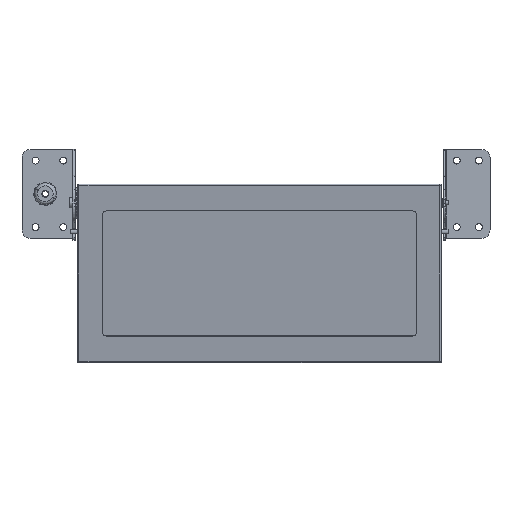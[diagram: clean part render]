
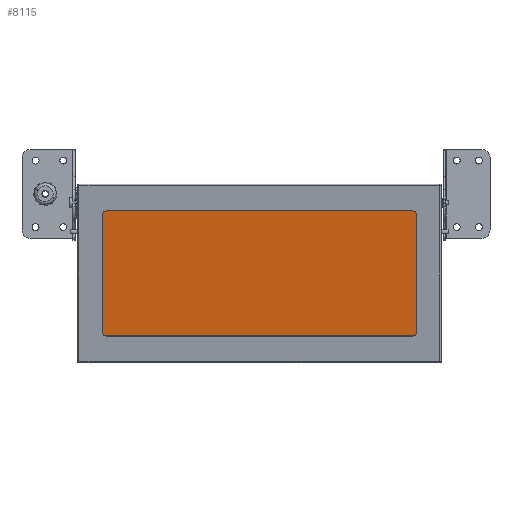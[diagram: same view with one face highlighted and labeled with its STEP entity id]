
A CAD part, top view. The second image highlights one B-rep face of the part: STEP entity #8115.
In plain terms, the highlighted planar face has unit normal (0, -0.143, 0.99) as drawn and (0, 1, 0) by its records, which use the part's own axes.
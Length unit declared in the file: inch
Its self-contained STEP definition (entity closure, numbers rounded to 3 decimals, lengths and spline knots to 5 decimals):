
#101 = CARTESIAN_POINT ( 'NONE',  ( -7.1, -0.063, 6.73509 ) ) ;
#220 = AXIS2_PLACEMENT_3D ( 'NONE', #3507, #10480, #4518 ) ;
#335 = ORIENTED_EDGE ( 'NONE', *, *, #1975, .T. ) ;
#511 = CARTESIAN_POINT ( 'NONE',  ( 7.1, -0.063, 1.41109 ) ) ;
#600 = CARTESIAN_POINT ( 'NONE',  ( -6.912, -0.063, 1.22309 ) ) ;
#781 = VERTEX_POINT ( 'NONE', #511 ) ;
#893 = FACE_OUTER_BOUND ( 'NONE', #8086, .T. ) ;
#924 = CARTESIAN_POINT ( 'NONE',  ( 6.912, -0.063, 1.22309 ) ) ;
#1223 = CARTESIAN_POINT ( 'NONE',  ( 7.1, -0.063, 1.41109 ) ) ;
#1345 = DIRECTION ( 'NONE',  ( 0., 1., 0. ) ) ;
#1771 = CARTESIAN_POINT ( 'NONE',  ( -7.1, -0.063, 1.41109 ) ) ;
#1891 = VECTOR ( 'NONE', #7227, 39.37008 ) ;
#1953 = DIRECTION ( 'NONE',  ( 0., 1., 0. ) ) ;
#1975 = EDGE_CURVE ( 'NONE', #12409, #9021, #6566, .T. ) ;
#2136 = VECTOR ( 'NONE', #2789, 39.37008 ) ;
#2204 = ORIENTED_EDGE ( 'NONE', *, *, #3698, .T. ) ;
#2222 = CIRCLE ( 'NONE', #220, 0.188 ) ;
#2368 = CARTESIAN_POINT ( 'NONE',  ( -6.912, -0.063, 6.92309 ) ) ;
#2396 = DIRECTION ( 'NONE',  ( 0., 1., 0. ) ) ;
#2520 = LINE ( 'NONE', #1223, #1891 ) ;
#2789 = DIRECTION ( 'NONE',  ( 0., 0., 1. ) ) ;
#3202 = PLANE ( 'NONE',  #7447 ) ;
#3250 = DIRECTION ( 'NONE',  ( 0., 1., 0. ) ) ;
#3507 = CARTESIAN_POINT ( 'NONE',  ( -6.912, -0.063, 1.41109 ) ) ;
#3574 = ORIENTED_EDGE ( 'NONE', *, *, #3628, .T. ) ;
#3628 = EDGE_CURVE ( 'NONE', #8362, #781, #2520, .T. ) ;
#3698 = EDGE_CURVE ( 'NONE', #11030, #8362, #9515, .T. ) ;
#3924 = VECTOR ( 'NONE', #11050, 39.37008 ) ;
#3975 = ORIENTED_EDGE ( 'NONE', *, *, #12106, .T. ) ;
#4077 = CARTESIAN_POINT ( 'NONE',  ( -6.912, -0.063, 6.92309 ) ) ;
#4302 = CARTESIAN_POINT ( 'NONE',  ( 6.912, -0.063, 6.92309 ) ) ;
#4518 = DIRECTION ( 'NONE',  ( 0., 0., 1. ) ) ;
#4663 = VERTEX_POINT ( 'NONE', #101 ) ;
#5516 = AXIS2_PLACEMENT_3D ( 'NONE', #8350, #2396, #9358 ) ;
#5844 = CIRCLE ( 'NONE', #9858, 0.188 ) ;
#5962 = VECTOR ( 'NONE', #6371, 39.37008 ) ;
#6253 = CARTESIAN_POINT ( 'NONE',  ( -6.912, -0.063, 1.22309 ) ) ;
#6371 = DIRECTION ( 'NONE',  ( 1., 0., 0. ) ) ;
#6566 = LINE ( 'NONE', #6253, #3924 ) ;
#7227 = DIRECTION ( 'NONE',  ( 0., 0., -1. ) ) ;
#7232 = EDGE_CURVE ( 'NONE', #781, #12409, #12384, .T. ) ;
#7319 = CARTESIAN_POINT ( 'NONE',  ( 6.912, -0.063, 6.73509 ) ) ;
#7447 = AXIS2_PLACEMENT_3D ( 'NONE', #9217, #3250, #10217 ) ;
#7743 = LINE ( 'NONE', #8764, #2136 ) ;
#7755 = ORIENTED_EDGE ( 'NONE', *, *, #7891, .T. ) ;
#7891 = EDGE_CURVE ( 'NONE', #12691, #4663, #7743, .T. ) ;
#7906 = CARTESIAN_POINT ( 'NONE',  ( -6.912, -0.063, 6.73509 ) ) ;
#8086 = EDGE_LOOP ( 'NONE', ( #9967, #11028, #2204, #3574, #8271, #335, #3975, #7755 ) ) ;
#8115 = ADVANCED_FACE ( 'NONE', ( #893 ), #3202, .T. ) ;
#8271 = ORIENTED_EDGE ( 'NONE', *, *, #7232, .T. ) ;
#8313 = DIRECTION ( 'NONE',  ( 0., 0., 1. ) ) ;
#8350 = CARTESIAN_POINT ( 'NONE',  ( 6.912, -0.063, 1.41109 ) ) ;
#8362 = VERTEX_POINT ( 'NONE', #8488 ) ;
#8488 = CARTESIAN_POINT ( 'NONE',  ( 7.1, -0.063, 6.73509 ) ) ;
#8608 = LINE ( 'NONE', #2368, #5962 ) ;
#8635 = EDGE_CURVE ( 'NONE', #4663, #10881, #5844, .T. ) ;
#8764 = CARTESIAN_POINT ( 'NONE',  ( -7.1, -0.063, 1.41109 ) ) ;
#8911 = DIRECTION ( 'NONE',  ( 0., 0., 1. ) ) ;
#9021 = VERTEX_POINT ( 'NONE', #600 ) ;
#9093 = AXIS2_PLACEMENT_3D ( 'NONE', #7319, #1345, #8313 ) ;
#9217 = CARTESIAN_POINT ( 'NONE',  ( -6.912, -0.063, 6.73509 ) ) ;
#9358 = DIRECTION ( 'NONE',  ( 0., 0., -1. ) ) ;
#9515 = CIRCLE ( 'NONE', #9093, 0.188 ) ;
#9858 = AXIS2_PLACEMENT_3D ( 'NONE', #7906, #1953, #8911 ) ;
#9967 = ORIENTED_EDGE ( 'NONE', *, *, #8635, .T. ) ;
#10217 = DIRECTION ( 'NONE',  ( 0., 0., 1. ) ) ;
#10480 = DIRECTION ( 'NONE',  ( 0., 1., 0. ) ) ;
#10881 = VERTEX_POINT ( 'NONE', #4077 ) ;
#11028 = ORIENTED_EDGE ( 'NONE', *, *, #11113, .T. ) ;
#11030 = VERTEX_POINT ( 'NONE', #4302 ) ;
#11050 = DIRECTION ( 'NONE',  ( -1., 0., 0. ) ) ;
#11113 = EDGE_CURVE ( 'NONE', #10881, #11030, #8608, .T. ) ;
#12106 = EDGE_CURVE ( 'NONE', #9021, #12691, #2222, .T. ) ;
#12384 = CIRCLE ( 'NONE', #5516, 0.188 ) ;
#12409 = VERTEX_POINT ( 'NONE', #924 ) ;
#12691 = VERTEX_POINT ( 'NONE', #1771 ) ;
